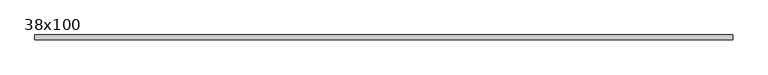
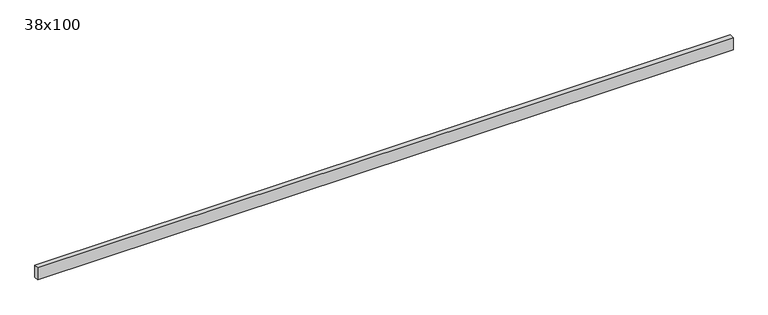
"""IFC4 building model written with IfcOpenShell, lengths in millimetres: beam geometry, Poutre - Bois de construction de dimensions courantes : 38x100."""

from ifc_helpers import new_model, si_unit, frame, origin, place, context, project, spatial, polyline, outline, extrude, source, transform, mapped, element, save


def beam_38x100_a402730b(model_context):
    return source(origin(), model_context, "Body", "SweptSolid", [
        extrude(outline(polyline([(2770.5, 19.05), (2770.5, -19.05), (-2770.5, -19.05), (-2770.5, 19.05), (2770.5, 19.05)])), frame((0.0, 0.0, -50.0), z_axis=(0.0, 0.0, 1.0), x_axis=(1.0, 0.0, 0.0)), (0.0, 0.0, 1.0), 100.0),
    ])


if __name__ == "__main__":
    model = new_model("IFC4")
    model_context = context("Model", 3, world=origin())
    ifc_project = project(units=[si_unit("LENGTHUNIT", "METRE", prefix="MILLI")], contexts=[model_context])
    site = spatial("IfcSite", under=ifc_project)
    building = spatial("IfcBuilding", under=site)
    placement = place(None, origin())
    beam_38x100_shape = beam_38x100_a402730b(model_context)
    element("IfcBeam", 1, ObjectType="Poutre - Bois de construction de dimensions courantes : 38x100", at=placement, inside=building, context=model_context, shape_type="MappedRepresentation", body=[
        mapped(beam_38x100_shape, transform((0.0, 0.0, 0.0), x_axis=(1.0, 0.0, 0.0), y_axis=(0.0, 1.0, 0.0), z_axis=(0.0, 0.0, 1.0))),
    ])
    save(model, "model.ifc")
